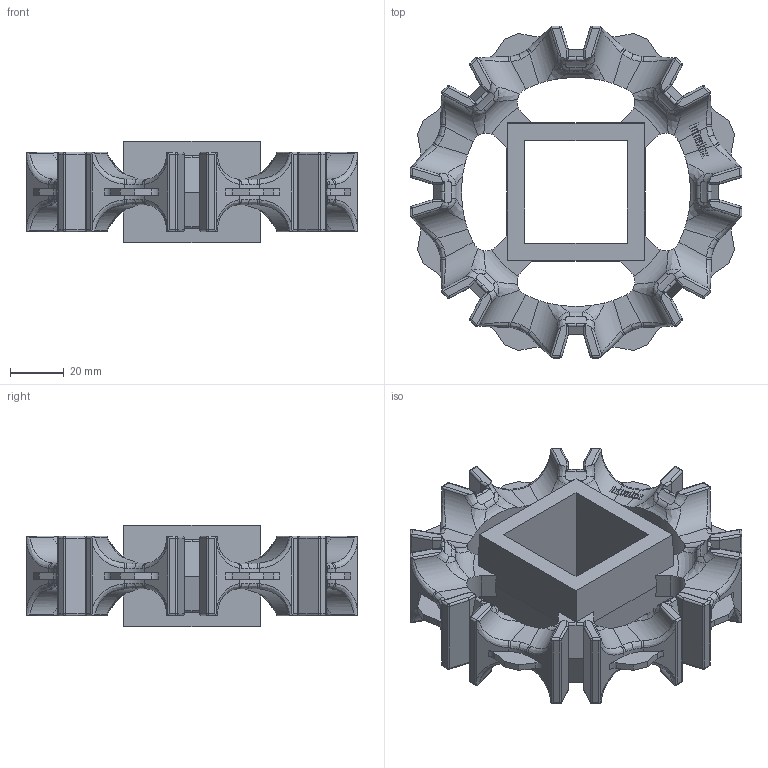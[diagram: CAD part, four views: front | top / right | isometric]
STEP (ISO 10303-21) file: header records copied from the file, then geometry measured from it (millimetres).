
FILE_DESCRIPTION((''),'2;1');
FILE_NAME('S800_EZCLEAN_52X15_40_SQ','2008-12-12T',('jmumphre'),(''),'PRO/ENGINEER BY PARAMETRIC TECHNOLOGY CORPORATION, 2008150','PRO/ENGINEER BY PARAMETRIC TECHNOLOGY CORPORATION, 2008150','');
FILE_SCHEMA(('CONFIG_CONTROL_DESIGN'));
Length unit declared in the file: inch
Products named in the file (1): S800_EZCLEAN_52X15_40_SQ
Bounding box: 123.31 x 123.31 x 37.59 mm (x, y, z)
Volume: 132684.8 mm3; surface area: 44141.8 mm2
Topology: 1 solids, 1 shells, 881 faces, 2378 edges, 1500 vertices
Faces by surface type: plane 282, cylinder 263, bspline 256, torus 48, sphere 32
Entity records: 40640 total; most frequent: CARTESIAN_POINT 21365, ORIENTED_EDGE 4756, DIRECTION 2990, EDGE_CURVE 2378, VERTEX_POINT 1500, B_SPLINE_CURVE_WITH_KNOTS 1068, AXIS2_PLACEMENT_3D 1055, EDGE_LOOP 892
